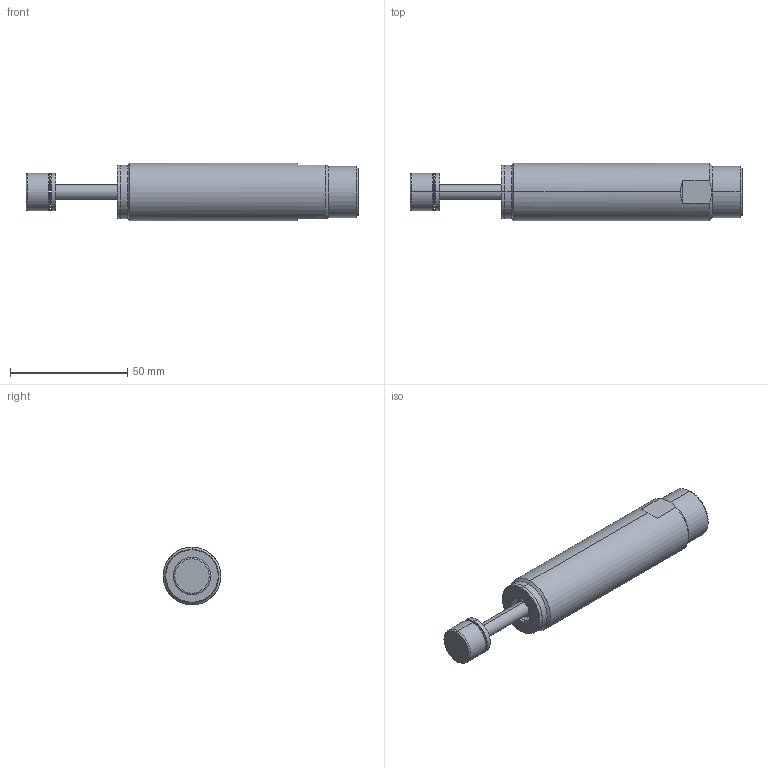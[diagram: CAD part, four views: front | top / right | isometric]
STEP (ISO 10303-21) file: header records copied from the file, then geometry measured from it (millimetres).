
FILE_DESCRIPTION (( 'STEP AP203' ), '1' );
FILE_NAME ('PRO-PM 100MFB.STEP', '2009-03-25T15:27:19', ( ' ' ), ( '' ), 'SwSTEP 2.0', 'SolidWorks 2006233', '' );
FILE_SCHEMA (( 'CONFIG_CONTROL_DESIGN' ));
Length unit declared in the file: inch
Products named in the file (1): PRO-PM 100MFB
Bounding box: 141.48 x 24.64 x 24.64 mm (x, y, z)
Surface area: 11438 mm2 (no closed solid volume)
Topology: 0 solids, 8 shells, 68 faces, 162 edges, 104 vertices
Faces by surface type: cone 22, cylinder 20, plane 20, torus 6
Entity records: 2098 total; most frequent: CARTESIAN_POINT 419, DIRECTION 370, ORIENTED_EDGE 290, EDGE_CURVE 162, AXIS2_PLACEMENT_3D 155, VERTEX_POINT 104, CIRCLE 86, EDGE_LOOP 77
